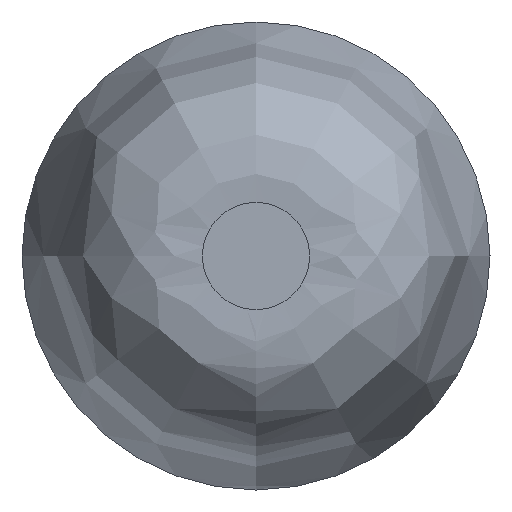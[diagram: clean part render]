
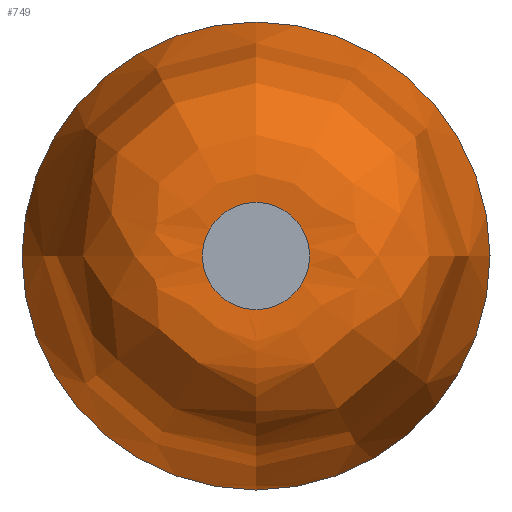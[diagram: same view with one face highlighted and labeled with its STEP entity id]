
A CAD part, left-side view. The second image highlights one B-rep face of the part: STEP entity #749.
In plain terms, the highlighted free-form (B-spline) face has degree [3, 3] with [8, 7] control points.
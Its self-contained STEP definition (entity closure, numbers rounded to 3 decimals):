
#17 = CARTESIAN_POINT ( 'NONE',  ( -3.459, -0.588, 1.177 ) ) ;
#25 = CARTESIAN_POINT ( 'NONE',  ( -3.459, -0.588, 0. ) ) ;
#38 = AXIS2_PLACEMENT_3D ( 'NONE', #1371, #870, #225 ) ;
#39 = CARTESIAN_POINT ( 'NONE',  ( -3.5, 0.199, 0. ) ) ;
#46 = CARTESIAN_POINT ( 'NONE',  ( -2.263, 0.873, 0. ) ) ;
#132 = EDGE_CURVE ( 'NONE', #1265, #1265, #1669, .T. ) ;
#143 = CARTESIAN_POINT ( 'NONE',  ( -3.459, 0.588, 0. ) ) ;
#152 = CARTESIAN_POINT ( 'NONE',  ( -2.263, -0.873, -1.745 ) ) ;
#160 = CARTESIAN_POINT ( 'NONE',  ( -3.511, -0.312, 0.623 ) ) ;
#169 = CARTESIAN_POINT ( 'NONE',  ( -3.5, 0.246, -0.493 ) ) ;
#177 = FACE_OUTER_BOUND ( 'NONE', #665, .T. ) ;
#225 = DIRECTION ( 'NONE',  ( 0., 0., -1. ) ) ;
#271 = CARTESIAN_POINT ( 'NONE',  ( -3.084, -0.784, -1.568 ) ) ;
#278 = CARTESIAN_POINT ( 'NONE',  ( -3.5, -0.246, 0.493 ) ) ;
#285 = CARTESIAN_POINT ( 'NONE',  ( -3.511, 0.312, 0.623 ) ) ;
#293 = CARTESIAN_POINT ( 'NONE',  ( -3.5, -0.246, 0. ) ) ;
#332 = DIRECTION ( 'NONE',  ( 0., 0., -1. ) ) ;
#390 = CARTESIAN_POINT ( 'NONE',  ( -2.621, -0.756, 0. ) ) ;
#397 = CARTESIAN_POINT ( 'NONE',  ( -3.511, -0.312, 0. ) ) ;
#405 = CARTESIAN_POINT ( 'NONE',  ( -3.084, -0.784, 0. ) ) ;
#406 = CIRCLE ( 'NONE', #38, 0.873 ) ;
#415 = CARTESIAN_POINT ( 'NONE',  ( -2.621, 0.756, 0. ) ) ;
#421 = CARTESIAN_POINT ( 'NONE',  ( -2.263, -0.873, 1.745 ) ) ;
#522 = CARTESIAN_POINT ( 'NONE',  ( -3.459, 0.588, -1.177 ) ) ;
#531 = CARTESIAN_POINT ( 'NONE',  ( -2.263, 0.873, -1.745 ) ) ;
#539 = CARTESIAN_POINT ( 'NONE',  ( -2.621, 0.756, 1.511 ) ) ;
#542 = ORIENTED_EDGE ( 'NONE', *, *, #132, .T. ) ;
#548 = CARTESIAN_POINT ( 'NONE',  ( -2.425, 0.873, -1.745 ) ) ;
#599 = EDGE_LOOP ( 'NONE', ( #542 ) ) ;
#610 = ORIENTED_EDGE ( 'NONE', *, *, #878, .F. ) ;
#654 = CARTESIAN_POINT ( 'NONE',  ( -3.084, 0.784, 1.568 ) ) ;
#665 = EDGE_LOOP ( 'NONE', ( #610 ) ) ;
#671 = CARTESIAN_POINT ( 'NONE',  ( -3.5, 0.246, 0. ) ) ;
#677 = CARTESIAN_POINT ( 'NONE',  ( -3.5, 0.246, 0. ) ) ;
#684 = FACE_OUTER_BOUND ( 'NONE', #599, .T. ) ;
#691 = CARTESIAN_POINT ( 'NONE',  ( -3.5, 0., 0. ) ) ;
#710 = CARTESIAN_POINT ( 'NONE',  ( -3.5, 0.199, 0. ) ) ;
#749 = ADVANCED_FACE ( 'NONE', ( #684, #177 ), #1089, .T. ) ;
#783 = CARTESIAN_POINT ( 'NONE',  ( -3.084, 0.784, -1.568 ) ) ;
#802 = CARTESIAN_POINT ( 'NONE',  ( -3.5, 0.246, 0.493 ) ) ;
#810 = CARTESIAN_POINT ( 'NONE',  ( -3.5, -0.246, -0.493 ) ) ;
#835 = CARTESIAN_POINT ( 'NONE',  ( -3.5, 0.199, -0.397 ) ) ;
#870 = DIRECTION ( 'NONE',  ( 1., 0., 0. ) ) ;
#878 = EDGE_CURVE ( 'NONE', #1523, #1523, #406, .T. ) ;
#911 = CARTESIAN_POINT ( 'NONE',  ( -2.621, -0.756, -1.511 ) ) ;
#922 = CARTESIAN_POINT ( 'NONE',  ( -3.511, 0.312, -0.623 ) ) ;
#933 = CARTESIAN_POINT ( 'NONE',  ( -3.084, 0.784, 0. ) ) ;
#941 = CARTESIAN_POINT ( 'NONE',  ( -3.459, 0.588, 1.177 ) ) ;
#985 = CARTESIAN_POINT ( 'NONE',  ( -3.5, -0.199, 0.397 ) ) ;
#1048 = CARTESIAN_POINT ( 'NONE',  ( -3.511, 0.312, 0. ) ) ;
#1054 = CARTESIAN_POINT ( 'NONE',  ( -2.425, -0.873, -1.745 ) ) ;
#1062 = CARTESIAN_POINT ( 'NONE',  ( -2.621, 0.756, 0. ) ) ;
#1071 = CARTESIAN_POINT ( 'NONE',  ( -3.5, 0.199, 0.397 ) ) ;
#1079 = CARTESIAN_POINT ( 'NONE',  ( -2.621, -0.756, 1.511 ) ) ;
#1082 = DIRECTION ( 'NONE',  ( 1., 0., 0. ) ) ;
#1089 =( BOUNDED_SURFACE ( )  B_SPLINE_SURFACE ( 3, 3, ( 
 ( #1576, #1194, #421, #1321, #152, #531, #46 ),
 ( #1310, #1456, #1200, #1209, #1054, #548, #1568 ),
 ( #1062, #539, #1079, #390, #911, #1302, #415 ),
 ( #1421, #654, #1184, #405, #271, #783, #933 ),
 ( #143, #941, #17, #25, #1179, #522, #1440 ),
 ( #1048, #285, #160, #397, #1448, #922, #1428 ),
 ( #671, #802, #278, #293, #810, #169, #677 ),
 ( #39, #1071, #985, #1236, #1590, #835, #710 ) ),
 .UNSPECIFIED., .F., .T., .T. ) 
 B_SPLINE_SURFACE_WITH_KNOTS ( ( 4, 1, 1, 1, 1, 4 ),
 ( 4, 3, 4 ),
 ( 0., 0.235, 0.513, 0.836, 0.932, 1. ),
 ( 0., 0.5, 1. ),
 .UNSPECIFIED. ) 
 GEOMETRIC_REPRESENTATION_ITEM ( )  RATIONAL_B_SPLINE_SURFACE ( (
 ( 1., 0.333, 0.333, 1., 0.333, 0.333, 1.),
 ( 1., 0.333, 0.333, 1., 0.333, 0.333, 1.),
 ( 1., 0.333, 0.333, 1., 0.333, 0.333, 1.),
 ( 1., 0.333, 0.333, 1., 0.333, 0.333, 1.),
 ( 1., 0.333, 0.333, 1., 0.333, 0.333, 1.),
 ( 1., 0.333, 0.333, 1., 0.333, 0.333, 1.),
 ( 1., 0.333, 0.333, 1., 0.333, 0.333, 1.),
 ( 1., 0.333, 0.333, 1., 0.333, 0.333, 1.) ) ) 
 REPRESENTATION_ITEM ( '' )  SURFACE ( )  );
#1151 = CARTESIAN_POINT ( 'NONE',  ( -2.263, 0., -0.873 ) ) ;
#1179 = CARTESIAN_POINT ( 'NONE',  ( -3.459, -0.588, -1.177 ) ) ;
#1184 = CARTESIAN_POINT ( 'NONE',  ( -3.084, -0.784, 1.568 ) ) ;
#1194 = CARTESIAN_POINT ( 'NONE',  ( -2.263, 0.873, 1.745 ) ) ;
#1200 = CARTESIAN_POINT ( 'NONE',  ( -2.425, -0.873, 1.745 ) ) ;
#1209 = CARTESIAN_POINT ( 'NONE',  ( -2.425, -0.873, 0. ) ) ;
#1236 = CARTESIAN_POINT ( 'NONE',  ( -3.5, -0.199, 0. ) ) ;
#1265 = VERTEX_POINT ( 'NONE', #1641 ) ;
#1302 = CARTESIAN_POINT ( 'NONE',  ( -2.621, 0.756, -1.511 ) ) ;
#1310 = CARTESIAN_POINT ( 'NONE',  ( -2.425, 0.873, 0. ) ) ;
#1321 = CARTESIAN_POINT ( 'NONE',  ( -2.263, -0.873, 0. ) ) ;
#1360 = AXIS2_PLACEMENT_3D ( 'NONE', #691, #1082, #332 ) ;
#1371 = CARTESIAN_POINT ( 'NONE',  ( -2.263, 0., 0. ) ) ;
#1421 = CARTESIAN_POINT ( 'NONE',  ( -3.084, 0.784, 0. ) ) ;
#1428 = CARTESIAN_POINT ( 'NONE',  ( -3.511, 0.312, 0. ) ) ;
#1440 = CARTESIAN_POINT ( 'NONE',  ( -3.459, 0.588, 0. ) ) ;
#1448 = CARTESIAN_POINT ( 'NONE',  ( -3.511, -0.312, -0.623 ) ) ;
#1456 = CARTESIAN_POINT ( 'NONE',  ( -2.425, 0.873, 1.745 ) ) ;
#1523 = VERTEX_POINT ( 'NONE', #1151 ) ;
#1568 = CARTESIAN_POINT ( 'NONE',  ( -2.425, 0.873, 0. ) ) ;
#1576 = CARTESIAN_POINT ( 'NONE',  ( -2.263, 0.873, 0. ) ) ;
#1590 = CARTESIAN_POINT ( 'NONE',  ( -3.5, -0.199, -0.397 ) ) ;
#1641 = CARTESIAN_POINT ( 'NONE',  ( -3.5, 0., -0.199 ) ) ;
#1669 = CIRCLE ( 'NONE', #1360, 0.199 ) ;
